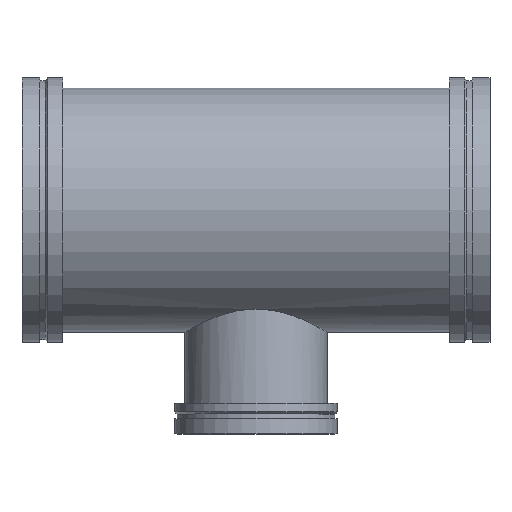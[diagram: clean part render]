
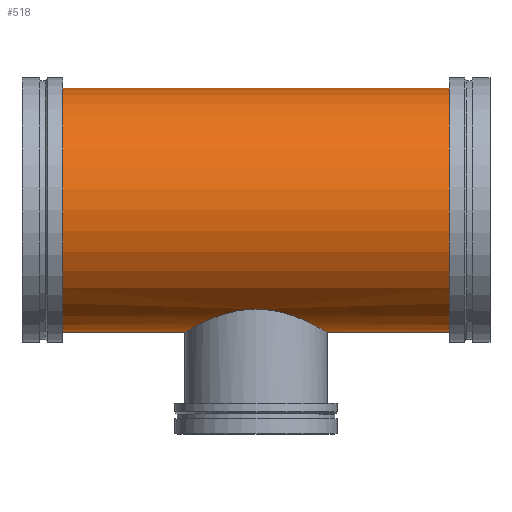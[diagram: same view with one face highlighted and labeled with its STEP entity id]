
A CAD part, top view. The second image highlights one B-rep face of the part: STEP entity #518.
In plain terms, the highlighted cylindrical face has radius 304.8 mm (diameter 609.6 mm), a full revolution.
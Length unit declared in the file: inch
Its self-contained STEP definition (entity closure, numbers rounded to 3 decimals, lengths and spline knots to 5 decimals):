
#51=FACE_BOUND('',#106,.T.);
#77=FACE_OUTER_BOUND('',#105,.T.);
#105=EDGE_LOOP('',(#381,#382,#383,#384,#385,#386));
#106=EDGE_LOOP('',(#387,#388));
#145=CIRCLE('',#580,12.);
#146=CIRCLE('',#581,12.);
#147=CIRCLE('',#582,12.);
#148=CIRCLE('',#583,12.);
#183=LINE('',#1056,#199);
#199=VECTOR('',#704,12.);
#211=B_SPLINE_CURVE_WITH_KNOTS('',3,(#926,#927,#928,#929,#930,#931,#932,
#933,#934,#935,#936,#937,#938,#939,#940,#941,#942,#943,#944,#945,#946,#947,
#948,#949,#950,#951,#952,#953,#954,#955,#956,#957,#958,#959,#960,#961,#962,
#963,#964,#965,#966,#967,#968,#969,#970,#971,#972,#973,#974,#975,#976,#977,
#978,#979,#980,#981,#982,#983,#984,#985,#986,#987),.UNSPECIFIED.,.F.,.F.,
(4,2,2,2,2,2,2,2,2,2,2,2,2,2,2,2,2,2,2,2,2,2,2,2,2,2,2,2,2,2,4),(0.,1.72864,
3.45729,6.91458,10.37187,13.82915,17.267,
20.70485,24.14269,25.86162,27.58054,29.29946,
31.01839,34.45623,37.89408,41.33192,44.78921,
48.2465,51.70379,53.43243,55.16108,56.88972,
58.61837,62.07565,65.53294,68.99023,72.42808,
75.86592,79.30377,81.02269,82.74162),
 .UNSPECIFIED.);
#212=B_SPLINE_CURVE_WITH_KNOTS('',3,(#988,#989,#990,#991,#992,#993,#994,
#995,#996,#997,#998,#999,#1000,#1001,#1002,#1003,#1004,#1005,#1006,#1007,
#1008,#1009),.UNSPECIFIED.,.F.,.F.,(4,2,2,2,2,2,2,2,2,2,4),(82.74162,
84.46054,86.17946,89.61731,93.05516,96.493,
99.95029,103.40758,106.86487,108.59351,110.32216),
 .UNSPECIFIED.);
#217=VERTEX_POINT('',#924);
#218=VERTEX_POINT('',#925);
#233=VERTEX_POINT('',#1051);
#234=VERTEX_POINT('',#1052);
#235=VERTEX_POINT('',#1055);
#236=VERTEX_POINT('',#1057);
#270=EDGE_CURVE('',#217,#218,#211,.T.);
#271=EDGE_CURVE('',#218,#217,#212,.T.);
#291=EDGE_CURVE('',#233,#234,#145,.T.);
#292=EDGE_CURVE('',#234,#233,#146,.T.);
#293=EDGE_CURVE('',#234,#235,#183,.T.);
#294=EDGE_CURVE('',#235,#236,#147,.T.);
#295=EDGE_CURVE('',#236,#235,#148,.T.);
#381=ORIENTED_EDGE('',*,*,#291,.F.);
#382=ORIENTED_EDGE('',*,*,#292,.F.);
#383=ORIENTED_EDGE('',*,*,#293,.T.);
#384=ORIENTED_EDGE('',*,*,#294,.T.);
#385=ORIENTED_EDGE('',*,*,#295,.T.);
#386=ORIENTED_EDGE('',*,*,#293,.F.);
#387=ORIENTED_EDGE('',*,*,#270,.T.);
#388=ORIENTED_EDGE('',*,*,#271,.T.);
#474=CYLINDRICAL_SURFACE('',#579,12.);
#518=ADVANCED_FACE('',(#77,#51),#474,.T.);
#579=AXIS2_PLACEMENT_3D('',#1050,#698,#699);
#580=AXIS2_PLACEMENT_3D('',#1053,#700,#701);
#581=AXIS2_PLACEMENT_3D('',#1054,#702,#703);
#582=AXIS2_PLACEMENT_3D('',#1058,#705,#706);
#583=AXIS2_PLACEMENT_3D('',#1059,#707,#708);
#698=DIRECTION('center_axis',(1.,0.,0.));
#699=DIRECTION('ref_axis',(0.,-1.,0.));
#700=DIRECTION('center_axis',(1.,0.,0.));
#701=DIRECTION('ref_axis',(0.,0.,1.));
#702=DIRECTION('center_axis',(1.,0.,0.));
#703=DIRECTION('ref_axis',(0.,0.,1.));
#704=DIRECTION('',(-1.,0.,0.));
#705=DIRECTION('center_axis',(1.,0.,0.));
#706=DIRECTION('ref_axis',(0.,0.,1.));
#707=DIRECTION('center_axis',(1.,0.,0.));
#708=DIRECTION('ref_axis',(0.,0.,1.));
#924=CARTESIAN_POINT('',(0.,-9.74679,7.));
#925=CARTESIAN_POINT('',(-7.,-12.,0.));
#926=CARTESIAN_POINT('Ctrl Pts',(0.,-9.74679,7.));
#927=CARTESIAN_POINT('Ctrl Pts',(0.22686,-9.74679,7.));
#928=CARTESIAN_POINT('Ctrl Pts',(0.45628,-9.75478,6.98893));
#929=CARTESIAN_POINT('Ctrl Pts',(0.91588,-9.78705,6.94366));
#930=CARTESIAN_POINT('Ctrl Pts',(1.14606,-9.81133,6.90947));
#931=CARTESIAN_POINT('Ctrl Pts',(1.83142,-9.90704,6.77222));
#932=CARTESIAN_POINT('Ctrl Pts',(2.28141,-10.00172,6.63409));
#933=CARTESIAN_POINT('Ctrl Pts',(3.1385,-10.23131,6.27422));
#934=CARTESIAN_POINT('Ctrl Pts',(3.54649,-10.36608,6.05219));
#935=CARTESIAN_POINT('Ctrl Pts',(4.29933,-10.64717,5.54277));
#936=CARTESIAN_POINT('Ctrl Pts',(4.6442,-10.79326,5.25529));
#937=CARTESIAN_POINT('Ctrl Pts',(5.25357,-11.06918,4.64592));
#938=CARTESIAN_POINT('Ctrl Pts',(5.54078,-11.20947,4.30193));
#939=CARTESIAN_POINT('Ctrl Pts',(6.05084,-11.47016,3.54883));
#940=CARTESIAN_POINT('Ctrl Pts',(6.27373,-11.59038,3.13969));
#941=CARTESIAN_POINT('Ctrl Pts',(6.63465,-11.78965,2.28008));
#942=CARTESIAN_POINT('Ctrl Pts',(6.77297,-11.86876,1.82875));
#943=CARTESIAN_POINT('Ctrl Pts',(6.91,-11.94767,1.14291));
#944=CARTESIAN_POINT('Ctrl Pts',(6.94405,-11.96743,0.91284));
#945=CARTESIAN_POINT('Ctrl Pts',(6.98905,-11.9936,0.45417));
#946=CARTESIAN_POINT('Ctrl Pts',(7.,-12.,0.22558));
#947=CARTESIAN_POINT('Ctrl Pts',(7.,-12.,-0.22558));
#948=CARTESIAN_POINT('Ctrl Pts',(6.98905,-11.9936,-0.45417));
#949=CARTESIAN_POINT('Ctrl Pts',(6.94405,-11.96743,-0.91284));
#950=CARTESIAN_POINT('Ctrl Pts',(6.91,-11.94767,-1.14291));
#951=CARTESIAN_POINT('Ctrl Pts',(6.77297,-11.86876,-1.82875));
#952=CARTESIAN_POINT('Ctrl Pts',(6.63465,-11.78965,-2.28008));
#953=CARTESIAN_POINT('Ctrl Pts',(6.27373,-11.59038,-3.13969));
#954=CARTESIAN_POINT('Ctrl Pts',(6.05084,-11.47016,-3.54883));
#955=CARTESIAN_POINT('Ctrl Pts',(5.54078,-11.20947,-4.30193));
#956=CARTESIAN_POINT('Ctrl Pts',(5.25357,-11.06918,-4.64592));
#957=CARTESIAN_POINT('Ctrl Pts',(4.6442,-10.79326,-5.25529));
#958=CARTESIAN_POINT('Ctrl Pts',(4.29933,-10.64717,-5.54277));
#959=CARTESIAN_POINT('Ctrl Pts',(3.54649,-10.36608,-6.05219));
#960=CARTESIAN_POINT('Ctrl Pts',(3.1385,-10.23131,-6.27422));
#961=CARTESIAN_POINT('Ctrl Pts',(2.28141,-10.00172,-6.63409));
#962=CARTESIAN_POINT('Ctrl Pts',(1.83142,-9.90704,-6.77222));
#963=CARTESIAN_POINT('Ctrl Pts',(1.14606,-9.81133,-6.90947));
#964=CARTESIAN_POINT('Ctrl Pts',(0.91588,-9.78705,-6.94366));
#965=CARTESIAN_POINT('Ctrl Pts',(0.45628,-9.75478,-6.98893));
#966=CARTESIAN_POINT('Ctrl Pts',(0.22686,-9.74679,-7.));
#967=CARTESIAN_POINT('Ctrl Pts',(-0.22686,-9.74679,-7.));
#968=CARTESIAN_POINT('Ctrl Pts',(-0.45628,-9.75478,-6.98893));
#969=CARTESIAN_POINT('Ctrl Pts',(-0.91588,-9.78705,-6.94366));
#970=CARTESIAN_POINT('Ctrl Pts',(-1.14606,-9.81133,-6.90947));
#971=CARTESIAN_POINT('Ctrl Pts',(-1.83142,-9.90704,-6.77222));
#972=CARTESIAN_POINT('Ctrl Pts',(-2.28141,-10.00172,-6.63409));
#973=CARTESIAN_POINT('Ctrl Pts',(-3.1385,-10.23131,-6.27422));
#974=CARTESIAN_POINT('Ctrl Pts',(-3.54649,-10.36608,-6.05219));
#975=CARTESIAN_POINT('Ctrl Pts',(-4.29933,-10.64717,-5.54277));
#976=CARTESIAN_POINT('Ctrl Pts',(-4.6442,-10.79326,-5.25529));
#977=CARTESIAN_POINT('Ctrl Pts',(-5.25357,-11.06918,-4.64592));
#978=CARTESIAN_POINT('Ctrl Pts',(-5.54078,-11.20947,-4.30193));
#979=CARTESIAN_POINT('Ctrl Pts',(-6.05084,-11.47016,-3.54883));
#980=CARTESIAN_POINT('Ctrl Pts',(-6.27373,-11.59038,-3.13969));
#981=CARTESIAN_POINT('Ctrl Pts',(-6.63465,-11.78965,-2.28008));
#982=CARTESIAN_POINT('Ctrl Pts',(-6.77297,-11.86876,-1.82875));
#983=CARTESIAN_POINT('Ctrl Pts',(-6.91,-11.94767,-1.14291));
#984=CARTESIAN_POINT('Ctrl Pts',(-6.94405,-11.96743,-0.91284));
#985=CARTESIAN_POINT('Ctrl Pts',(-6.98905,-11.9936,-0.45417));
#986=CARTESIAN_POINT('Ctrl Pts',(-7.,-12.,-0.22558));
#987=CARTESIAN_POINT('Ctrl Pts',(-7.,-12.,0.));
#988=CARTESIAN_POINT('Ctrl Pts',(-7.,-12.,0.));
#989=CARTESIAN_POINT('Ctrl Pts',(-7.,-12.,0.22558));
#990=CARTESIAN_POINT('Ctrl Pts',(-6.98905,-11.9936,0.45417));
#991=CARTESIAN_POINT('Ctrl Pts',(-6.94405,-11.96743,0.91284));
#992=CARTESIAN_POINT('Ctrl Pts',(-6.91,-11.94767,1.14291));
#993=CARTESIAN_POINT('Ctrl Pts',(-6.77297,-11.86876,1.82875));
#994=CARTESIAN_POINT('Ctrl Pts',(-6.63465,-11.78965,2.28008));
#995=CARTESIAN_POINT('Ctrl Pts',(-6.27373,-11.59038,3.13969));
#996=CARTESIAN_POINT('Ctrl Pts',(-6.05084,-11.47016,3.54883));
#997=CARTESIAN_POINT('Ctrl Pts',(-5.54078,-11.20947,4.30193));
#998=CARTESIAN_POINT('Ctrl Pts',(-5.25357,-11.06918,4.64592));
#999=CARTESIAN_POINT('Ctrl Pts',(-4.6442,-10.79326,5.25529));
#1000=CARTESIAN_POINT('Ctrl Pts',(-4.29933,-10.64717,5.54277));
#1001=CARTESIAN_POINT('Ctrl Pts',(-3.54649,-10.36608,6.05219));
#1002=CARTESIAN_POINT('Ctrl Pts',(-3.1385,-10.23131,6.27422));
#1003=CARTESIAN_POINT('Ctrl Pts',(-2.28141,-10.00172,6.63409));
#1004=CARTESIAN_POINT('Ctrl Pts',(-1.83142,-9.90704,6.77222));
#1005=CARTESIAN_POINT('Ctrl Pts',(-1.14606,-9.81133,6.90947));
#1006=CARTESIAN_POINT('Ctrl Pts',(-0.91588,-9.78705,
6.94366));
#1007=CARTESIAN_POINT('Ctrl Pts',(-0.45628,-9.75478,
6.98893));
#1008=CARTESIAN_POINT('Ctrl Pts',(-0.22686,-9.74679,
7.));
#1009=CARTESIAN_POINT('Ctrl Pts',(0.,-9.74679,7.));
#1050=CARTESIAN_POINT('Origin',(9.5,0.,0.));
#1051=CARTESIAN_POINT('',(19.,-12.,0.));
#1052=CARTESIAN_POINT('',(19.,12.,0.));
#1053=CARTESIAN_POINT('Origin',(19.,0.,0.));
#1054=CARTESIAN_POINT('Origin',(19.,0.,0.));
#1055=CARTESIAN_POINT('',(-19.,12.,0.));
#1056=CARTESIAN_POINT('',(9.5,12.,0.));
#1057=CARTESIAN_POINT('',(-19.,-12.,0.));
#1058=CARTESIAN_POINT('Origin',(-19.,0.,0.));
#1059=CARTESIAN_POINT('Origin',(-19.,0.,0.));
